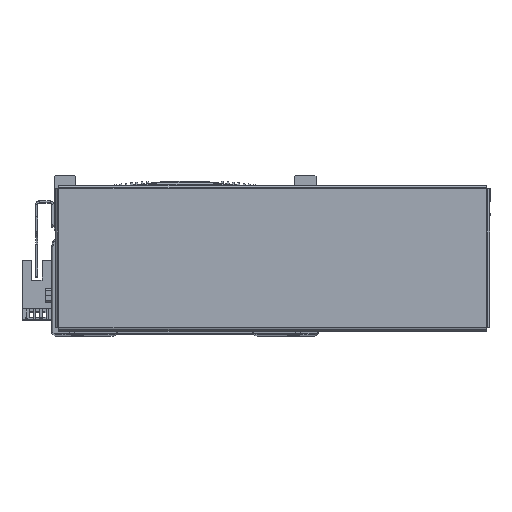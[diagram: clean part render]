
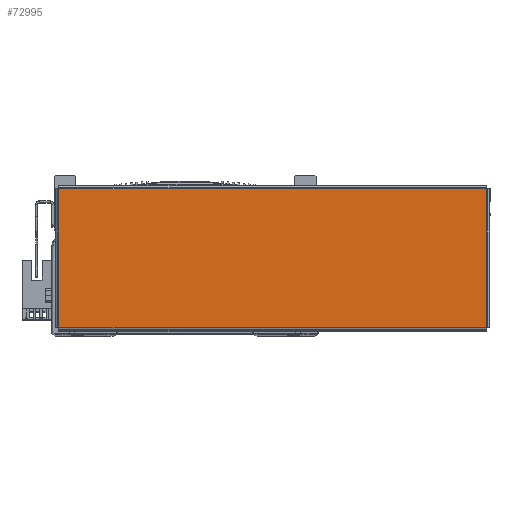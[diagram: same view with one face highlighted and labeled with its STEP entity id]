
A CAD part, top view. The second image highlights one B-rep face of the part: STEP entity #72995.
In plain terms, the highlighted planar face has unit normal (0, 0, 1) as drawn and (0, 0, -1) by its records, which use the part's own axes.
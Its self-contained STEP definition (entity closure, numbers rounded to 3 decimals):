
#2039 = EDGE_LOOP ( 'NONE', ( #41736, #41765, #41768, #41761 ) ) ;
#2765 = FACE_OUTER_BOUND ( 'NONE', #2039, .T. ) ;
#5316 = PLANE ( 'NONE',  #18108 ) ;
#5323 = CARTESIAN_POINT ( 'NONE',  ( 0., 0., -1. ) ) ;
#5332 = DIRECTION ( 'NONE',  ( 1., 0., 0. ) ) ;
#5341 = DIRECTION ( 'NONE',  ( 0., 0., 1. ) ) ;
#18108 = AXIS2_PLACEMENT_3D ( 'NONE', #5323, #5341, #5332 ) ;
#40155 = VERTEX_POINT ( 'NONE', #43936 ) ;
#40165 = VERTEX_POINT ( 'NONE', #43945 ) ;
#40239 = VERTEX_POINT ( 'NONE', #43979 ) ;
#41736 = ORIENTED_EDGE ( 'NONE', *, *, #48937, .T. ) ;
#41761 = ORIENTED_EDGE ( 'NONE', *, *, #48938, .T. ) ;
#41765 = ORIENTED_EDGE ( 'NONE', *, *, #48929, .T. ) ;
#41768 = ORIENTED_EDGE ( 'NONE', *, *, #48947, .T. ) ;
#43936 = CARTESIAN_POINT ( 'NONE',  ( 97.863, -31.763, -1. ) ) ;
#43945 = CARTESIAN_POINT ( 'NONE',  ( -97.863, -31.763, -1. ) ) ;
#43979 = CARTESIAN_POINT ( 'NONE',  ( -97.863, 31.763, -1. ) ) ;
#48929 = EDGE_CURVE ( 'NONE', #40155, #40165, #72771, .T. ) ;
#48937 = EDGE_CURVE ( 'NONE', #51042, #40155, #72869, .T. ) ;
#48938 = EDGE_CURVE ( 'NONE', #40239, #51042, #72885, .T. ) ;
#48947 = EDGE_CURVE ( 'NONE', #40165, #40239, #72876, .T. ) ;
#51042 = VERTEX_POINT ( 'NONE', #54382 ) ;
#54382 = CARTESIAN_POINT ( 'NONE',  ( 97.863, 31.763, -1. ) ) ;
#56197 = CARTESIAN_POINT ( 'NONE',  ( 97.893, -31.763, -1. ) ) ;
#56209 = DIRECTION ( 'NONE',  ( -1., 0., 0. ) ) ;
#56237 = CARTESIAN_POINT ( 'NONE',  ( -97.893, 31.763, -1. ) ) ;
#56263 = CARTESIAN_POINT ( 'NONE',  ( 97.863, 31.793, -1. ) ) ;
#56271 = DIRECTION ( 'NONE',  ( 1., 0., 0. ) ) ;
#56296 = DIRECTION ( 'NONE',  ( 0., -1., 0. ) ) ;
#56402 = DIRECTION ( 'NONE',  ( 0., 1., 0. ) ) ;
#56425 = CARTESIAN_POINT ( 'NONE',  ( -97.863, -31.793, -1. ) ) ;
#72728 = VECTOR ( 'NONE', #56209, 1000. ) ;
#72771 = LINE ( 'NONE', #56197, #72728 ) ;
#72778 = VECTOR ( 'NONE', #56296, 1000. ) ;
#72808 = VECTOR ( 'NONE', #56271, 1000. ) ;
#72819 = VECTOR ( 'NONE', #56402, 1000. ) ;
#72869 = LINE ( 'NONE', #56263, #72778 ) ;
#72876 = LINE ( 'NONE', #56425, #72819 ) ;
#72885 = LINE ( 'NONE', #56237, #72808 ) ;
#72995 = ADVANCED_FACE ( 'NONE', ( #2765 ), #5316, .F. ) ;
